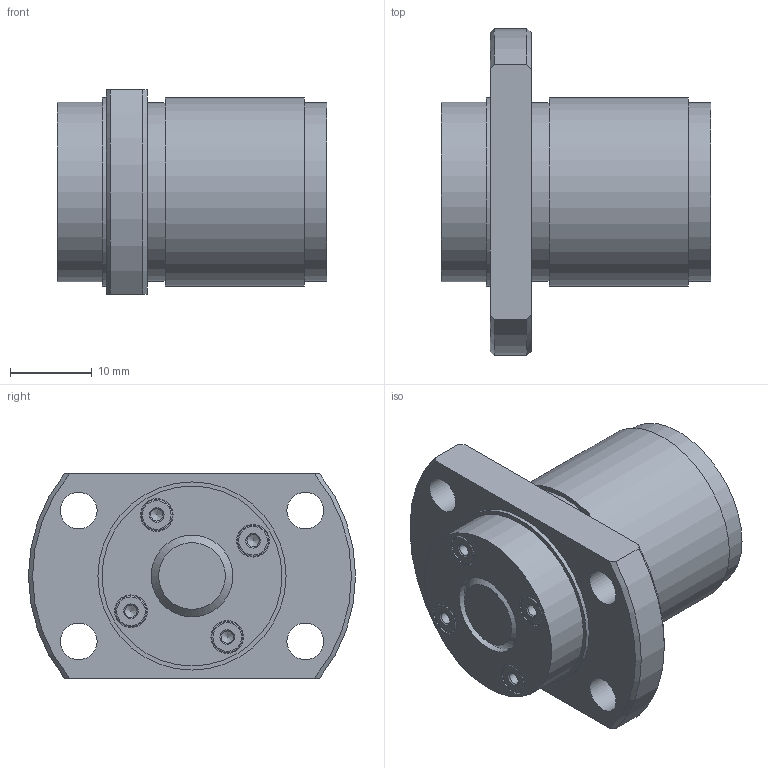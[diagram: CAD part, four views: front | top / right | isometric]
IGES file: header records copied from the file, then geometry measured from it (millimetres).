
Start section: Data from Parasolid IGES Translator 26.0.171, Copyright(c) 2006 Siemens PLM Software. All Rights Reserved.
Global section: file name: WGF1015-3G1+33LC3_0_13_0_0.igs; native system: By Siemens PLM Incorporated; preprocessor: XPlus GENERIC/IGES 26.0.171; author: Noname; organization: Noname; date: 20250116.062415; units: millimetre
Bounding box: 33 x 40 x 25 mm (x, y, z)
Surface area: 6945.1 mm2 (no closed solid volume)
Topology: 0 solids, 0 shells, 62 faces, 248 edges, 186 vertices
Faces by surface type: revolution 43, extrusion 19
